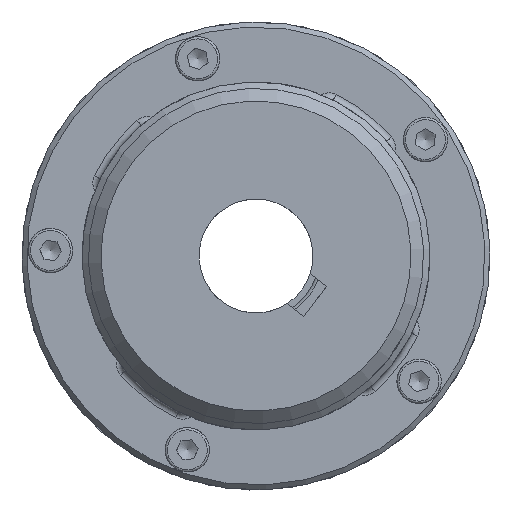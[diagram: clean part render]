
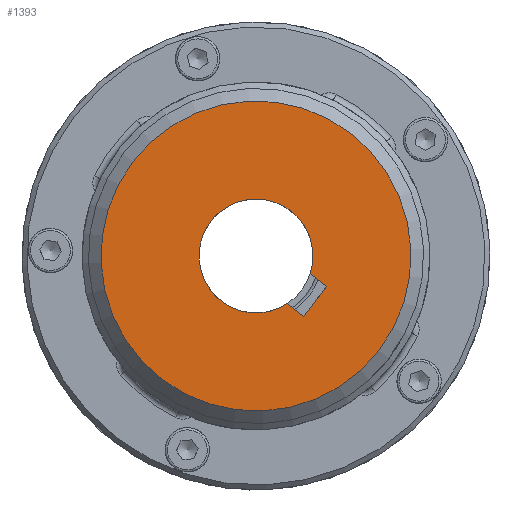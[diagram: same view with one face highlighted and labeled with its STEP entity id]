
A CAD part, front view. The second image highlights one B-rep face of the part: STEP entity #1393.
In plain terms, the highlighted planar face has unit normal (0, -1, 0).
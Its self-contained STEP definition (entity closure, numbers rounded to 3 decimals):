
#1393 = ADVANCED_FACE( '', ( #3127, #3128 ), #3129, .T. );
#3127 = FACE_BOUND( '', #5317, .T. );
#3128 = FACE_OUTER_BOUND( '', #5318, .T. );
#3129 = PLANE( '', #5319 );
#5317 = EDGE_LOOP( '', ( #8656, #8657, #8658, #8659 ) );
#5318 = EDGE_LOOP( '', ( #8660 ) );
#5319 = AXIS2_PLACEMENT_3D( '', #8661, #8662, #8663 );
#8656 = ORIENTED_EDGE( '', *, *, #10811, .F. );
#8657 = ORIENTED_EDGE( '', *, *, #10284, .F. );
#8658 = ORIENTED_EDGE( '', *, *, #10533, .F. );
#8659 = ORIENTED_EDGE( '', *, *, #10812, .F. );
#8660 = ORIENTED_EDGE( '', *, *, #10769, .T. );
#8661 = CARTESIAN_POINT( '', ( -34.766, -62., -4.565 ) );
#8662 = DIRECTION( '', ( 0., -1., 0. ) );
#8663 = DIRECTION( '', ( 0.793, 0., -0.609 ) );
#10284 = EDGE_CURVE( '', #12142, #12144, #12145, .F. );
#10533 = EDGE_CURVE( '', #12487, #12142, #12489, .F. );
#10769 = EDGE_CURVE( '', #12798, #12798, #12799, .F. );
#10811 = EDGE_CURVE( '', #12144, #12848, #12849, .F. );
#10812 = EDGE_CURVE( '', #12848, #12487, #12850, .T. );
#12142 = VERTEX_POINT( '', #14913 );
#12144 = VERTEX_POINT( '', #14916 );
#12145 = LINE( '', #14917, #14918 );
#12487 = VERTEX_POINT( '', #15415 );
#12489 = LINE( '', #15418, #15419 );
#12798 = VERTEX_POINT( '', #15996 );
#12799 = CIRCLE( '', #15997, 24.5 );
#12848 = VERTEX_POINT( '', #16278 );
#12849 = LINE( '', #16279, #16280 );
#12850 = CIRCLE( '', #16281, 9. );
#14913 = CARTESIAN_POINT( '', ( 7.532, -62., -9.566 ) );
#14916 = CARTESIAN_POINT( '', ( 11.186, -62., -4.807 ) );
#14917 = CARTESIAN_POINT( '', ( 11.186, -62., -4.807 ) );
#14918 = VECTOR( '', #17663, 1000. );
#15415 = CARTESIAN_POINT( '', ( 4.903, -62., -7.547 ) );
#15418 = CARTESIAN_POINT( '', ( 7.532, -62., -9.566 ) );
#15419 = VECTOR( '', #18024, 1000. );
#15996 = CARTESIAN_POINT( '', ( 14.921, -62., 19.432 ) );
#15997 = AXIS2_PLACEMENT_3D( '', #18302, #18303, #18304 );
#16278 = CARTESIAN_POINT( '', ( 8.557, -62., -2.788 ) );
#16279 = CARTESIAN_POINT( '', ( 8.557, -62., -2.788 ) );
#16280 = VECTOR( '', #18342, 1000. );
#16281 = AXIS2_PLACEMENT_3D( '', #18343, #18344, #18345 );
#17663 = DIRECTION( '', ( -0.609, 0., -0.793 ) );
#18024 = DIRECTION( '', ( -0.793, 0., 0.609 ) );
#18302 = CARTESIAN_POINT( '', ( 0., -62., 0. ) );
#18303 = DIRECTION( '', ( 0., 1., 0. ) );
#18304 = DIRECTION( '', ( 0.609, 0., 0.793 ) );
#18342 = DIRECTION( '', ( 0.793, 0., -0.609 ) );
#18343 = CARTESIAN_POINT( '', ( 0., -62., 0. ) );
#18344 = DIRECTION( '', ( 0., -1., 0. ) );
#18345 = DIRECTION( '', ( 0.793, 0., -0.609 ) );
